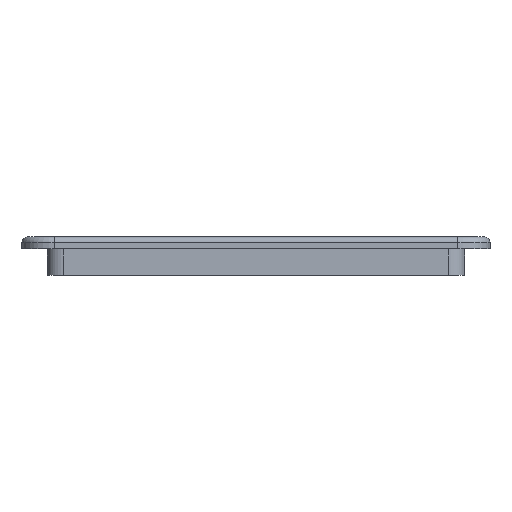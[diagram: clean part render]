
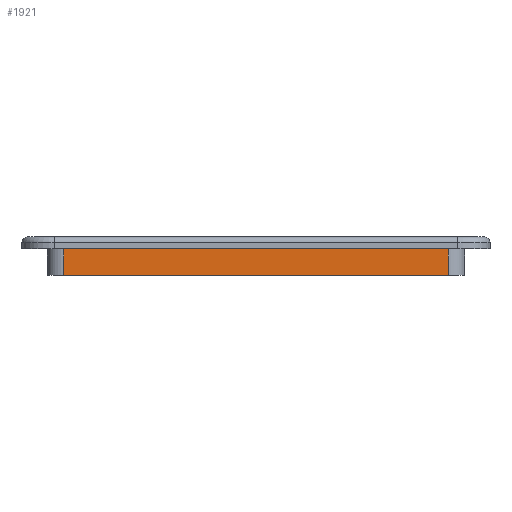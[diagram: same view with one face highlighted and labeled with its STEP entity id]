
A CAD part, left-side view. The second image highlights one B-rep face of the part: STEP entity #1921.
In plain terms, the highlighted planar face has unit normal (-1, 0, 0).
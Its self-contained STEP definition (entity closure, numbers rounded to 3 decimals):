
#144 = PLANE('',#145);
#145 = AXIS2_PLACEMENT_3D('',#146,#147,#148);
#146 = CARTESIAN_POINT('',(0.,0.,0.));
#147 = DIRECTION('',(0.,0.,1.));
#148 = DIRECTION('',(1.,0.,-0.));
#593 = EDGE_CURVE('',#594,#596,#598,.T.);
#594 = VERTEX_POINT('',#595);
#595 = CARTESIAN_POINT('',(-84.15,47.7,0.));
#596 = VERTEX_POINT('',#597);
#597 = CARTESIAN_POINT('',(-84.15,-47.7,0.));
#598 = SURFACE_CURVE('',#599,(#603,#609),.PCURVE_S1.);
#599 = LINE('',#600,#601);
#600 = CARTESIAN_POINT('',(-84.15,-23.85,0.));
#601 = VECTOR('',#602,1.);
#602 = DIRECTION('',(0.,-1.,0.));
#603 = PCURVE('',#144,#604);
#604 = DEFINITIONAL_REPRESENTATION('',(#605),#608);
#605 = B_SPLINE_CURVE_WITH_KNOTS('',1,(#606,#607),.UNSPECIFIED.,.F.,.F.,
  (2,2),(-71.55,23.85),.PIECEWISE_BEZIER_KNOTS.);
#606 = CARTESIAN_POINT('',(-84.15,47.7));
#607 = CARTESIAN_POINT('',(-84.15,-47.7));
#608 = ( GEOMETRIC_REPRESENTATION_CONTEXT(2) 
PARAMETRIC_REPRESENTATION_CONTEXT() REPRESENTATION_CONTEXT('2D SPACE',''
  ) );
#609 = PCURVE('',#610,#615);
#610 = PLANE('',#611);
#611 = AXIS2_PLACEMENT_3D('',#612,#613,#614);
#612 = CARTESIAN_POINT('',(-84.15,-47.7,-6.5));
#613 = DIRECTION('',(-1.,0.,0.));
#614 = DIRECTION('',(0.,1.,0.));
#615 = DEFINITIONAL_REPRESENTATION('',(#616),#619);
#616 = B_SPLINE_CURVE_WITH_KNOTS('',1,(#617,#618),.UNSPECIFIED.,.F.,.F.,
  (2,2),(-71.55,23.85),.PIECEWISE_BEZIER_KNOTS.);
#617 = CARTESIAN_POINT('',(95.4,-6.5));
#618 = CARTESIAN_POINT('',(0.,-6.5));
#619 = ( GEOMETRIC_REPRESENTATION_CONTEXT(2) 
PARAMETRIC_REPRESENTATION_CONTEXT() REPRESENTATION_CONTEXT('2D SPACE',''
  ) );
#642 = CYLINDRICAL_SURFACE('',#643,4.);
#643 = AXIS2_PLACEMENT_3D('',#644,#645,#646);
#644 = CARTESIAN_POINT('',(-80.15,47.7,-6.5));
#645 = DIRECTION('',(-0.,-0.,-1.));
#646 = DIRECTION('',(1.,0.,0.));
#817 = CYLINDRICAL_SURFACE('',#818,4.);
#818 = AXIS2_PLACEMENT_3D('',#819,#820,#821);
#819 = CARTESIAN_POINT('',(-80.15,-47.7,-6.5));
#820 = DIRECTION('',(-0.,-0.,-1.));
#821 = DIRECTION('',(1.,0.,0.));
#1921 = ADVANCED_FACE('',(#1922),#610,.T.);
#1922 = FACE_BOUND('',#1923,.T.);
#1923 = EDGE_LOOP('',(#1924,#1954,#1975,#1976));
#1924 = ORIENTED_EDGE('',*,*,#1925,.F.);
#1925 = EDGE_CURVE('',#1926,#1928,#1930,.T.);
#1926 = VERTEX_POINT('',#1927);
#1927 = CARTESIAN_POINT('',(-84.15,-47.7,-6.5));
#1928 = VERTEX_POINT('',#1929);
#1929 = CARTESIAN_POINT('',(-84.15,47.7,-6.5));
#1930 = SURFACE_CURVE('',#1931,(#1935,#1942),.PCURVE_S1.);
#1931 = LINE('',#1932,#1933);
#1932 = CARTESIAN_POINT('',(-84.15,0.,-6.5));
#1933 = VECTOR('',#1934,1.);
#1934 = DIRECTION('',(0.,1.,0.));
#1935 = PCURVE('',#610,#1936);
#1936 = DEFINITIONAL_REPRESENTATION('',(#1937),#1941);
#1937 = LINE('',#1938,#1939);
#1938 = CARTESIAN_POINT('',(47.7,0.));
#1939 = VECTOR('',#1940,1.);
#1940 = DIRECTION('',(1.,0.));
#1941 = ( GEOMETRIC_REPRESENTATION_CONTEXT(2) 
PARAMETRIC_REPRESENTATION_CONTEXT() REPRESENTATION_CONTEXT('2D SPACE',''
  ) );
#1942 = PCURVE('',#1943,#1948);
#1943 = PLANE('',#1944);
#1944 = AXIS2_PLACEMENT_3D('',#1945,#1946,#1947);
#1945 = CARTESIAN_POINT('',(0.,0.,-6.5)
  );
#1946 = DIRECTION('',(0.,0.,1.));
#1947 = DIRECTION('',(1.,0.,-0.));
#1948 = DEFINITIONAL_REPRESENTATION('',(#1949),#1953);
#1949 = LINE('',#1950,#1951);
#1950 = CARTESIAN_POINT('',(-84.15,0.));
#1951 = VECTOR('',#1952,1.);
#1952 = DIRECTION('',(0.,1.));
#1953 = ( GEOMETRIC_REPRESENTATION_CONTEXT(2) 
PARAMETRIC_REPRESENTATION_CONTEXT() REPRESENTATION_CONTEXT('2D SPACE',''
  ) );
#1954 = ORIENTED_EDGE('',*,*,#1955,.T.);
#1955 = EDGE_CURVE('',#1926,#596,#1956,.T.);
#1956 = SURFACE_CURVE('',#1957,(#1961,#1968),.PCURVE_S1.);
#1957 = LINE('',#1958,#1959);
#1958 = CARTESIAN_POINT('',(-84.15,-47.7,-6.5));
#1959 = VECTOR('',#1960,1.);
#1960 = DIRECTION('',(0.,0.,1.));
#1961 = PCURVE('',#610,#1962);
#1962 = DEFINITIONAL_REPRESENTATION('',(#1963),#1967);
#1963 = LINE('',#1964,#1965);
#1964 = CARTESIAN_POINT('',(0.,0.));
#1965 = VECTOR('',#1966,1.);
#1966 = DIRECTION('',(0.,-1.));
#1967 = ( GEOMETRIC_REPRESENTATION_CONTEXT(2) 
PARAMETRIC_REPRESENTATION_CONTEXT() REPRESENTATION_CONTEXT('2D SPACE',''
  ) );
#1968 = PCURVE('',#817,#1969);
#1969 = DEFINITIONAL_REPRESENTATION('',(#1970),#1974);
#1970 = LINE('',#1971,#1972);
#1971 = CARTESIAN_POINT('',(-3.142,0.));
#1972 = VECTOR('',#1973,1.);
#1973 = DIRECTION('',(-0.,-1.));
#1974 = ( GEOMETRIC_REPRESENTATION_CONTEXT(2) 
PARAMETRIC_REPRESENTATION_CONTEXT() REPRESENTATION_CONTEXT('2D SPACE',''
  ) );
#1975 = ORIENTED_EDGE('',*,*,#593,.F.);
#1976 = ORIENTED_EDGE('',*,*,#1977,.F.);
#1977 = EDGE_CURVE('',#1928,#594,#1978,.T.);
#1978 = SURFACE_CURVE('',#1979,(#1983,#1990),.PCURVE_S1.);
#1979 = LINE('',#1980,#1981);
#1980 = CARTESIAN_POINT('',(-84.15,47.7,-6.5));
#1981 = VECTOR('',#1982,1.);
#1982 = DIRECTION('',(0.,0.,1.));
#1983 = PCURVE('',#610,#1984);
#1984 = DEFINITIONAL_REPRESENTATION('',(#1985),#1989);
#1985 = LINE('',#1986,#1987);
#1986 = CARTESIAN_POINT('',(95.4,0.));
#1987 = VECTOR('',#1988,1.);
#1988 = DIRECTION('',(0.,-1.));
#1989 = ( GEOMETRIC_REPRESENTATION_CONTEXT(2) 
PARAMETRIC_REPRESENTATION_CONTEXT() REPRESENTATION_CONTEXT('2D SPACE',''
  ) );
#1990 = PCURVE('',#642,#1991);
#1991 = DEFINITIONAL_REPRESENTATION('',(#1992),#1996);
#1992 = LINE('',#1993,#1994);
#1993 = CARTESIAN_POINT('',(-3.142,0.));
#1994 = VECTOR('',#1995,1.);
#1995 = DIRECTION('',(-0.,-1.));
#1996 = ( GEOMETRIC_REPRESENTATION_CONTEXT(2) 
PARAMETRIC_REPRESENTATION_CONTEXT() REPRESENTATION_CONTEXT('2D SPACE',''
  ) );
